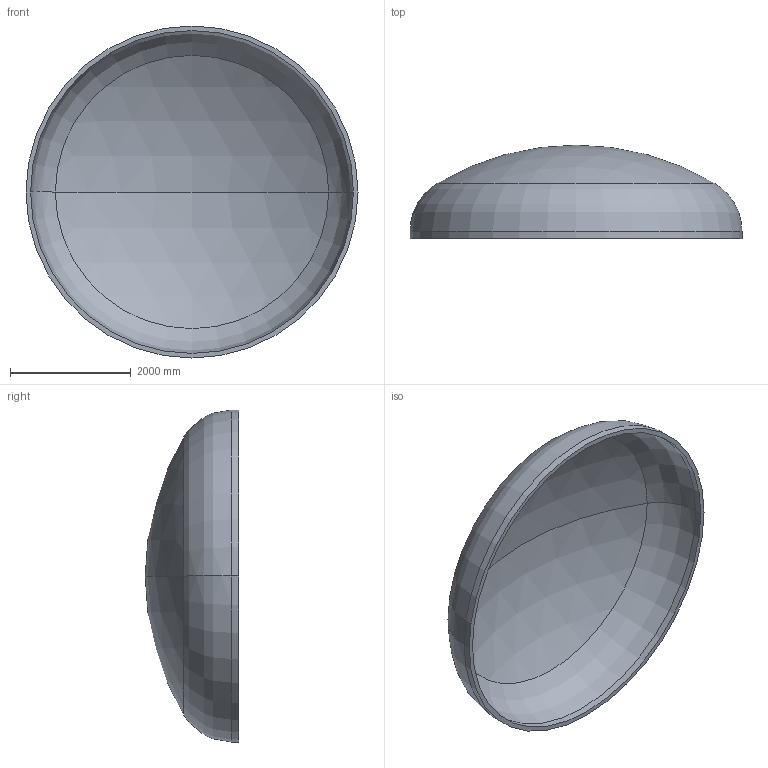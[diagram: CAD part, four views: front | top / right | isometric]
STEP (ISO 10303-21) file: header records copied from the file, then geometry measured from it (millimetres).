
FILE_DESCRIPTION (( 'STEP AP203' ), '1' );
FILE_NAME ('DIN 28013 Korbbogenform_-_Boden DIN 28013 - 5500 x 120 - I - s=76.step', '2016-07-04T10:34:47', ( '' ), ( '' ), 'SwSTEP 2.0', 'SolidWorks 2013', '' );
FILE_SCHEMA (( 'CONFIG_CONTROL_DESIGN' ));
Length unit declared in the file: millimetre
Products named in the file (1): DIN 28013 Korbbogenform_-_Boden DIN 28013 - 5500 x 120 - I - s=76
Bounding box: 5500 x 1547.59 x 5500 mm (x, y, z)
Volume: 2609788602.8 mm3; surface area: 69985759 mm2
Topology: 1 solids, 1 shells, 13 faces, 24 edges, 14 vertices
Faces by surface type: torus 4, cylinder 4, sphere 4, plane 1
Entity records: 407 total; most frequent: DIRECTION 72, CARTESIAN_POINT 52, ORIENTED_EDGE 48, AXIS2_PLACEMENT_3D 34, EDGE_CURVE 24, CIRCLE 20, EDGE_LOOP 14, VERTEX_POINT 14
